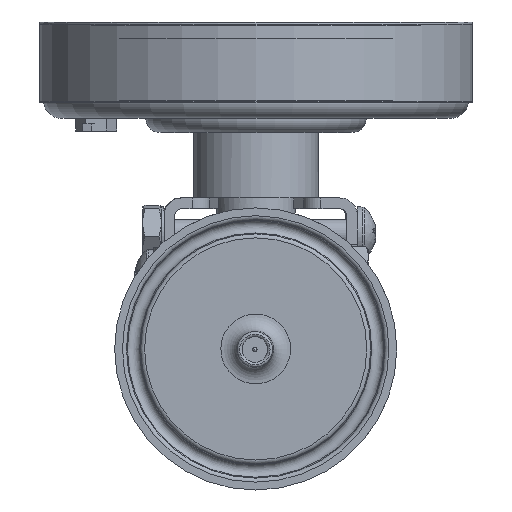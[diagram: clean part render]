
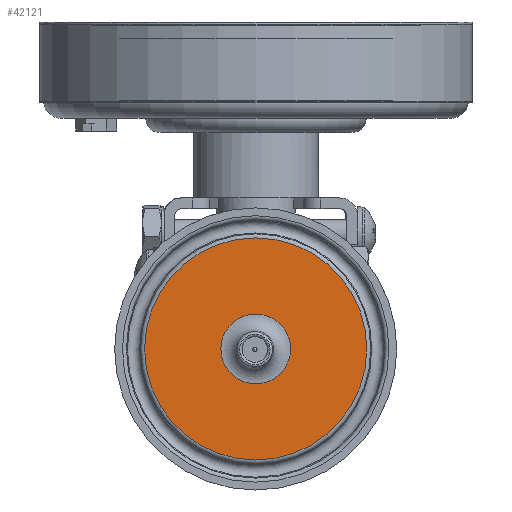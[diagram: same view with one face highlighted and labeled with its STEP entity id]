
A CAD part, front view. The second image highlights one B-rep face of the part: STEP entity #42121.
In plain terms, the highlighted planar face has unit normal (-0.001, -1, -0.001).
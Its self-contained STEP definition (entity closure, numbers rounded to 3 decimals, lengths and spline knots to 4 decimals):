
#10494=FACE_BOUND($,#14999,.T.);
#12440=FACE_OUTER_BOUND($,#14998,.T.);
#14998=EDGE_LOOP($,(#35150));
#14999=EDGE_LOOP($,(#35151));
#15636=CIRCLE($,#44047,0.2452);
#15637=CIRCLE($,#44049,0.7811);
#19218=VERTEX_POINT($,#70272);
#19219=VERTEX_POINT($,#70275);
#24642=EDGE_CURVE($,#19218,#19218,#15636,.T.);
#24643=EDGE_CURVE($,#19219,#19219,#15637,.T.);
#35150=ORIENTED_EDGE($,*,*,#24643,.F.);
#35151=ORIENTED_EDGE($,*,*,#24642,.F.);
#38382=PLANE($,#44048);
#42121=ADVANCED_FACE($,(#12440,#10494),#38382,.T.);
#44047=AXIS2_PLACEMENT_3D($,#70273,#51552,#51553);
#44048=AXIS2_PLACEMENT_3D($,#70274,#51554,#51555);
#44049=AXIS2_PLACEMENT_3D($,#70276,#51556,#51557);
#51552=DIRECTION('center_axis',(-0.001,-1.,
-0.001));
#51553=DIRECTION('ref_axis',(0.866,-0.001,-0.5));
#51554=DIRECTION('center_axis',(-0.001,-1.,
-0.001));
#51555=DIRECTION('ref_axis',(-0.5,0.001,-0.866));
#51556=DIRECTION('center_axis',(0.001,1.,
0.001));
#51557=DIRECTION('ref_axis',(-0.866,0.001,0.5));
#70272=CARTESIAN_POINT('',(2.0399,1.3812,6.7935));
#70273=CARTESIAN_POINT('Origin',(2.2523,1.3811,6.6708));
#70274=CARTESIAN_POINT('Origin',(2.3605,1.381,6.6083));
#70275=CARTESIAN_POINT('',(2.9287,1.3807,6.2803));
#70276=CARTESIAN_POINT('Origin',(2.2523,1.3811,6.6708));
